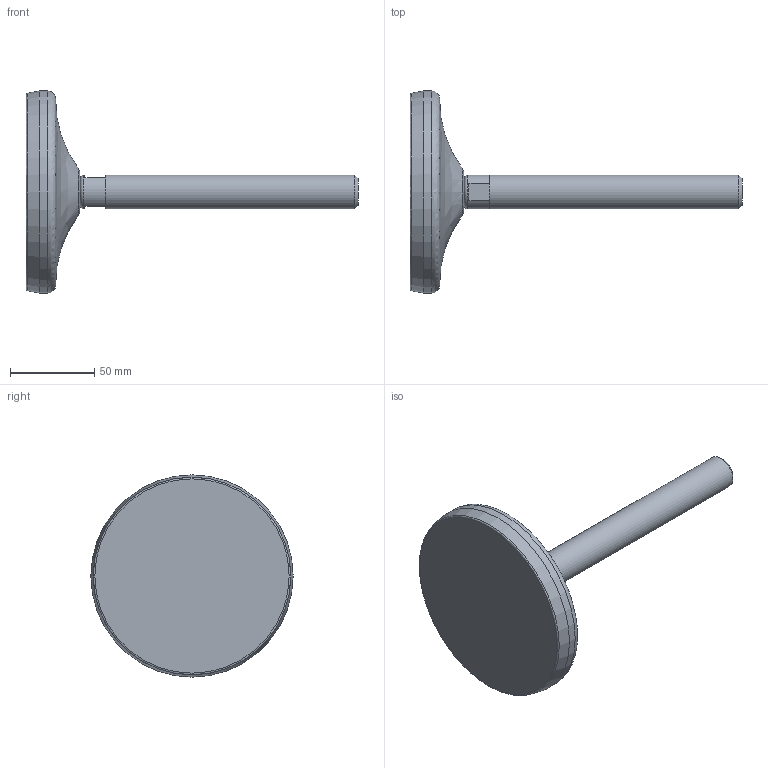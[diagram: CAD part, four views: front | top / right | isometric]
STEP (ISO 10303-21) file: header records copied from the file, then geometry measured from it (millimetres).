
FILE_DESCRIPTION(('STEP AP203'),'2;1');
FILE_NAME('25268.stp','2014-06-30T08:32:23',(''),(''),'2008.1.107','THINKDESIGN','');
FILE_SCHEMA(('CONFIG_CONTROL_DESIGN'));
Length unit declared in the file: millimetre
Bounding box: 197 x 120 x 120 mm (x, y, z)
Volume: 281060 mm3; surface area: 62383.4 mm2
Topology: 4 solids, 4 shells, 22 faces, 49 edges, 35 vertices
Faces by surface type: plane 12, bspline 7, cylinder 3
Full cylindrical faces by diameter (mm): 20 x2, 120 x1
Entity records: 1210 total; most frequent: CARTESIAN_POINT 610, DIRECTION 115, ORIENTED_EDGE 98, AXIS2_PLACEMENT_3D 51, EDGE_CURVE 49, CIRCLE 36, VERTEX_POINT 35, EDGE_LOOP 22
